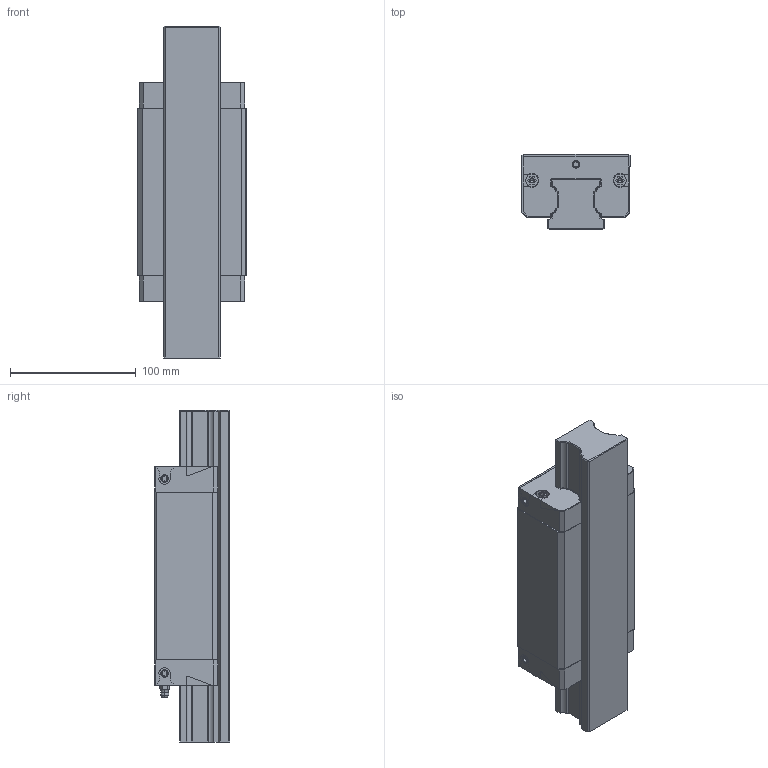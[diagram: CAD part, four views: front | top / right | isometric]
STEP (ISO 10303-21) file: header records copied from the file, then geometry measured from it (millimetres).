
FILE_DESCRIPTION((''),'2;1');
FILE_NAME('KWD_045_SLS_CS__ASM','2021-10-14T07:09:46',('ac91sw'),(''),'CREO PARAMETRIC BY PTC INC, 2020044','CREO PARAMETRIC BY PTC INC, 2020044','');
FILE_SCHEMA(('AUTOMOTIVE_DESIGN { 1 0 10303 214 1 1 1 1 }'));
Length unit declared in the file: millimetre
Products named in the file (7): KWD_045_SLS_CS__SKEL; R201240301; R200140102_Z; R343706101_Z; KWD_045_SLS_CS__PSF; R341700802_Z; KWD_045_SLS_CS__ASM
Assembly tree (11 placements, depth 2):
  KWD_045_SLS_CS__ASM
    KWD_045_SLS_CS__SKEL
    R201240301
    R200140102_Z  x2
    R343706101_Z  x5
    KWD_045_SLS_CS__PSF
    R341700802_Z
Bounding box: 86 x 60 x 264.1 mm (x, y, z)
Volume: 839381 mm3; surface area: 149871.2 mm2
Topology: 10 solids, 24 shells, 512 faces, 1310 edges, 830 vertices
Faces by surface type: plane 292, cylinder 142, cone 72, torus 4, sphere 2
Entity records: 16416 total; most frequent: CARTESIAN_POINT 1937, DIRECTION 1648, ORIENTED_EDGE 1540, PROPERTY_DEFINITION 822, REPRESENTATION 813, PROPERTY_DEFINITION_REPRESENTATION 813, EDGE_CURVE 786, DESCRIPTIVE_REPRESENTATION_ITEM 756
